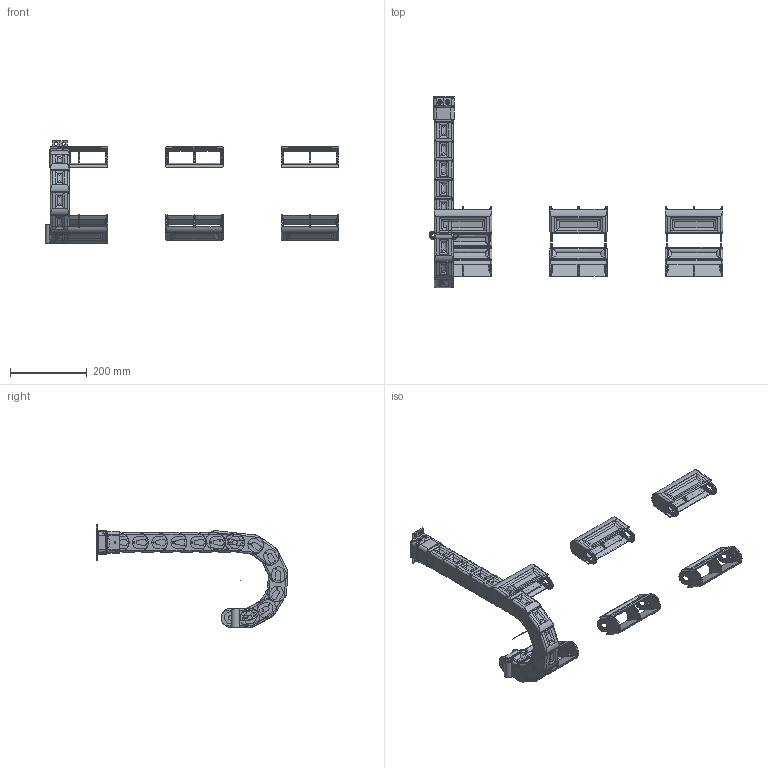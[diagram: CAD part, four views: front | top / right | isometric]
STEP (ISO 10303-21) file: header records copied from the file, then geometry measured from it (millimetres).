
FILE_DESCRIPTION((''),'2;1');
FILE_NAME('C:\Uebbing\PARAMETERKETTEN\PFR\PFR 221\PFR 221 PARAMETRISCH.stp','2012-03-30T08:17:26',('Uebbing'),(''),'Autodesk Inventor 10','Autodesk Inventor 10','');
FILE_SCHEMA(('AUTOMOTIVE_DESIGN { 1 0 10303 214 1 1 1 1 }'));
Length unit declared in the file: millimetre
Products named in the file (11): PFR 221 PARAMETRISCH; PFR 223 R100; Achse; PFR 221 Anschluss A; PFR 221 Normalanschluss; Anschlusswinkel; Imbusschraube M6x5 Senkkopf; Rändelmutter M6 flach; PFR 221 Kunststoffanschluß; PFR 221 Glied R100; PFR 221 Glied R100 abgeschlagen
Assembly tree (36 placements, depth 3):
  PFR 221 PARAMETRISCH
    PFR 223 R100  x7
    Achse
    PFR 221 Anschluss A
      PFR 221 Normalanschluss
      Anschlusswinkel  x4
      Imbusschraube M6x5 Senkkopf  x4
      Rändelmutter M6 flach  x4
    PFR 221 Kunststoffanschluß
    PFR 221 Glied R100  x12
    PFR 221 Glied R100 abgeschlagen
Bounding box: 763 x 497.3 x 267.3 mm (x, y, z)
Volume: 1619953.9 mm3; surface area: 764439.5 mm2
Topology: 35 solids, 35 shells, 2776 faces, 7340 edges, 4632 vertices
Faces by surface type: bspline 1008, cylinder 841, plane 684, torus 227, cone 16
Full cylindrical faces by diameter (mm): 1 x1, 3.5 x28, 6 x8, 6.5 x4, 8.5 x1, 9 x8, 9.2 x4, 11 x4, 12 x4, 14 x2
Entity records: 29233 total; most frequent: CARTESIAN_POINT 13399, ORIENTED_EDGE 3322, DIRECTION 3076, EDGE_CURVE 1661, AXIS2_PLACEMENT_3D 1150, VERTEX_POINT 1058, VECTOR 776, LINE 776
